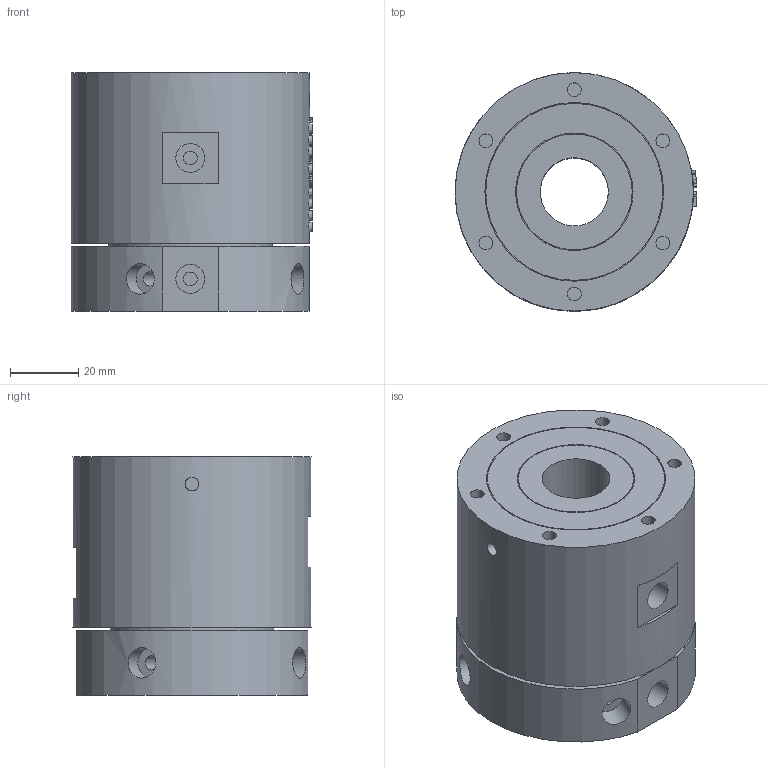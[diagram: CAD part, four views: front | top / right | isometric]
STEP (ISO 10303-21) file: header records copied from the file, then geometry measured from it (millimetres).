
FILE_DESCRIPTION(/* description */ (''),/* implementation_level */ '2;1');
FILE_NAME(/* name */ 'HQ0201D20.stp',/* time_stamp */ '2024-07-01T13:37:32+08:00',/* author */ (''),/* organization */ (''),/* preprocessor_version */ 'ST-DEVELOPER v16.7',/* originating_system */ 'SIEMENS PLM Software NX 12.0',/* authorisation */ '');
FILE_SCHEMA (('AUTOMOTIVE_DESIGN { 1 0 10303 214 3 1 1 1 }'));
Length unit declared in the file: millimetre
Products named in the file (1): 861347DCAE21xjw7
Bounding box: 71 x 70 x 70 mm (x, y, z)
Volume: 236219.2 mm3; surface area: 37623.6 mm2
Topology: 1 solids, 1 shells, 397 faces, 968 edges, 646 vertices
Faces by surface type: plane 161, extrusion 157, cylinder 52, bspline 27
Full cylindrical faces by diameter (mm): 4 x14, 4.2 x6, 7 x4, 8.5 x4, 9 x4, 20 x1, 34 x1, 34.5 x1, 48 x1, 52 x1, 52.5 x1, 70 x1
Entity records: 17283 total; most frequent: CARTESIAN_POINT 8777, ORIENTED_EDGE 1836, DIRECTION 1255, EDGE_CURVE 918, VERTEX_POINT 642, B_SPLINE_CURVE_WITH_KNOTS 548, VECTOR 541, EDGE_LOOP 526
